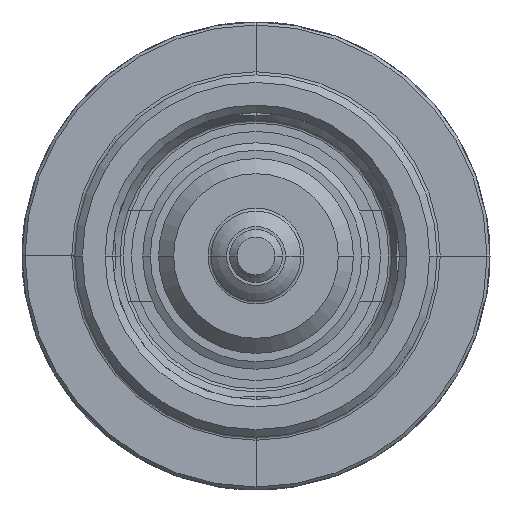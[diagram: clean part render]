
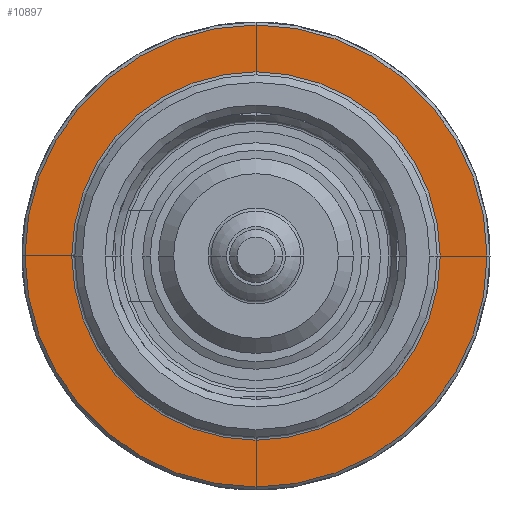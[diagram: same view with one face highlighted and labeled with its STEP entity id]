
A CAD part, front view. The second image highlights one B-rep face of the part: STEP entity #10897.
In plain terms, the highlighted planar face has unit normal (0, -1, 0).
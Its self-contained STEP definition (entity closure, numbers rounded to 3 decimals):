
#9656=CARTESIAN_POINT('',(0.,-16.,0.));
#9657=DIRECTION('',(0.,-1.,0.));
#9658=DIRECTION('',(-1.,0.,0.));
#9659=AXIS2_PLACEMENT_3D('',#9656,#9657,#9658);
#9661=CARTESIAN_POINT('',(0.,-16.,0.));
#9662=DIRECTION('',(0.,-1.,0.));
#9663=DIRECTION('',(1.,0.,0.));
#9664=AXIS2_PLACEMENT_3D('',#9661,#9662,#9663);
#9666=CARTESIAN_POINT('',(0.,-16.,
0.));
#9667=DIRECTION('',(0.,1.,0.));
#9668=DIRECTION('',(0.,0.,1.));
#9669=AXIS2_PLACEMENT_3D('',#9666,#9667,#9668);
#9671=CARTESIAN_POINT('',(0.,-16.,
0.));
#9672=DIRECTION('',(0.,1.,0.));
#9673=DIRECTION('',(0.,0.,-1.));
#9674=AXIS2_PLACEMENT_3D('',#9671,#9672,#9673);
#10295=CARTESIAN_POINT('',(-12.2,-16.,0.));
#10296=CARTESIAN_POINT('',(12.2,-16.,0.));
#10297=VERTEX_POINT('',#10295);
#10298=VERTEX_POINT('',#10296);
#10419=CARTESIAN_POINT('',(0.,-16.,15.3));
#10420=CARTESIAN_POINT('',(0.,-16.,-15.3));
#10421=VERTEX_POINT('',#10419);
#10422=VERTEX_POINT('',#10420);
#10882=CARTESIAN_POINT('',(0.,-16.,0.));
#10883=DIRECTION('',(0.,1.,0.));
#10884=DIRECTION('',(1.,0.,0.));
#10885=AXIS2_PLACEMENT_3D('',#10882,#10883,#10884);
#10886=PLANE('',#10885);
#10887=ORIENTED_EDGE('',*,*,#10876,.T.);
#10888=ORIENTED_EDGE('',*,*,#10862,.T.);
#10889=EDGE_LOOP('',(#10887,#10888));
#10890=FACE_OUTER_BOUND('',#10889,.F.);
#10892=ORIENTED_EDGE('',*,*,#10891,.T.);
#10894=ORIENTED_EDGE('',*,*,#10893,.T.);
#10895=EDGE_LOOP('',(#10892,#10894));
#10896=FACE_BOUND('',#10895,.F.);
#10897=ADVANCED_FACE('',(#10890,#10896),#10886,.F.);
#9660=CIRCLE('',#9659,12.2);
#9665=CIRCLE('',#9664,12.2);
#9670=CIRCLE('',#9669,15.3);
#9675=CIRCLE('',#9674,15.3);
#10862=EDGE_CURVE('',#10422,#10421,#9675,.T.);
#10876=EDGE_CURVE('',#10421,#10422,#9670,.T.);
#10891=EDGE_CURVE('',#10297,#10298,#9660,.T.);
#10893=EDGE_CURVE('',#10298,#10297,#9665,.T.);
